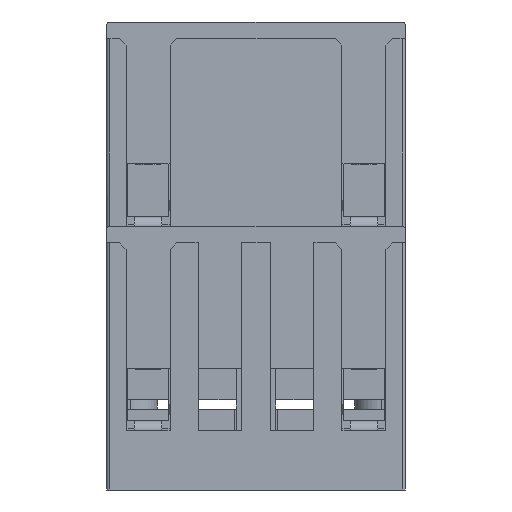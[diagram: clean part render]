
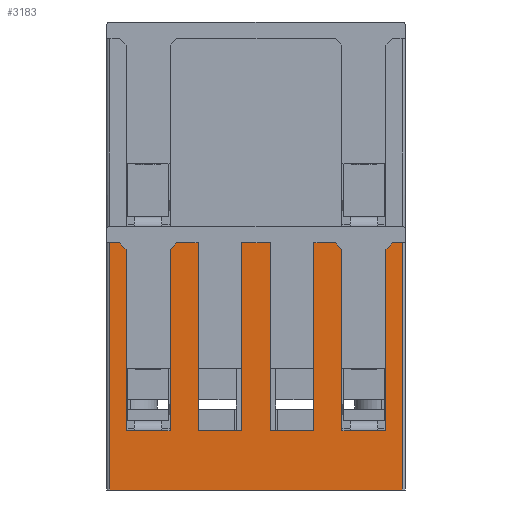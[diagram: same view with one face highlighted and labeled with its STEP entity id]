
A CAD part, left-side view. The second image highlights one B-rep face of the part: STEP entity #3183.
In plain terms, the highlighted planar face has unit normal (-1, 0, 0) as drawn and (1, 0, 0) by its records, which use the part's own axes.
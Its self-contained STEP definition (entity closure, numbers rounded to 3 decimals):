
#3183=ADVANCED_FACE('',(#5503),#4385,.T.);
#4385=PLANE('',#27590);
#5503=FACE_OUTER_BOUND('',#6837,.T.);
#6837=EDGE_LOOP('',(#11658,#11659,#11660,#11661,#11662,#11663,#11664,#11665,
#11666,#11667,#11668,#11669,#11670,#11671,#11672,#11673,#11674,#11675,#11676,
#11677,#11678,#11679,#11680,#11681));
#11658=ORIENTED_EDGE('',*,*,#19515,.T.);
#11659=ORIENTED_EDGE('',*,*,#19516,.T.);
#11660=ORIENTED_EDGE('',*,*,#19517,.F.);
#11661=ORIENTED_EDGE('',*,*,#19518,.T.);
#11662=ORIENTED_EDGE('',*,*,#19519,.F.);
#11663=ORIENTED_EDGE('',*,*,#19520,.F.);
#11664=ORIENTED_EDGE('',*,*,#19271,.F.);
#11665=ORIENTED_EDGE('',*,*,#19276,.T.);
#11666=ORIENTED_EDGE('',*,*,#19377,.F.);
#11667=ORIENTED_EDGE('',*,*,#19521,.F.);
#11668=ORIENTED_EDGE('',*,*,#19522,.F.);
#11669=ORIENTED_EDGE('',*,*,#19523,.F.);
#11670=ORIENTED_EDGE('',*,*,#19351,.F.);
#11671=ORIENTED_EDGE('',*,*,#19524,.F.);
#11672=ORIENTED_EDGE('',*,*,#19525,.F.);
#11673=ORIENTED_EDGE('',*,*,#19526,.F.);
#11674=ORIENTED_EDGE('',*,*,#19348,.F.);
#11675=ORIENTED_EDGE('',*,*,#19317,.T.);
#11676=ORIENTED_EDGE('',*,*,#19308,.F.);
#11677=ORIENTED_EDGE('',*,*,#19527,.F.);
#11678=ORIENTED_EDGE('',*,*,#19528,.F.);
#11679=ORIENTED_EDGE('',*,*,#19529,.T.);
#11680=ORIENTED_EDGE('',*,*,#19344,.F.);
#11681=ORIENTED_EDGE('',*,*,#19530,.T.);
#16350=VERTEX_POINT('',#40593);
#16357=VERTEX_POINT('',#40608);
#16360=VERTEX_POINT('',#40617);
#16384=VERTEX_POINT('',#40679);
#16385=VERTEX_POINT('',#40681);
#16392=VERTEX_POINT('',#40698);
#16414=VERTEX_POINT('',#40750);
#16415=VERTEX_POINT('',#40752);
#16418=VERTEX_POINT('',#40760);
#16420=VERTEX_POINT('',#40765);
#16421=VERTEX_POINT('',#40767);
#16436=VERTEX_POINT('',#40818);
#16527=VERTEX_POINT('',#41075);
#16528=VERTEX_POINT('',#41076);
#16529=VERTEX_POINT('',#41078);
#16530=VERTEX_POINT('',#41080);
#16531=VERTEX_POINT('',#41082);
#16532=VERTEX_POINT('',#41084);
#16533=VERTEX_POINT('',#41087);
#16534=VERTEX_POINT('',#41089);
#16535=VERTEX_POINT('',#41092);
#16536=VERTEX_POINT('',#41094);
#16537=VERTEX_POINT('',#41097);
#16538=VERTEX_POINT('',#41099);
#19271=EDGE_CURVE('',#16357,#16350,#22518,.T.);
#19276=EDGE_CURVE('',#16357,#16360,#22523,.T.);
#19308=EDGE_CURVE('',#16384,#16385,#22554,.T.);
#19317=EDGE_CURVE('',#16392,#16385,#22563,.T.);
#19344=EDGE_CURVE('',#16414,#16415,#22589,.T.);
#19348=EDGE_CURVE('',#16392,#16418,#22593,.T.);
#19351=EDGE_CURVE('',#16420,#16421,#22596,.T.);
#19377=EDGE_CURVE('',#16436,#16360,#22620,.T.);
#19515=EDGE_CURVE('',#16527,#16528,#22743,.T.);
#19516=EDGE_CURVE('',#16528,#16529,#22744,.T.);
#19517=EDGE_CURVE('',#16530,#16529,#22745,.T.);
#19518=EDGE_CURVE('',#16530,#16531,#22746,.T.);
#19519=EDGE_CURVE('',#16532,#16531,#22747,.T.);
#19520=EDGE_CURVE('',#16350,#16532,#22748,.T.);
#19521=EDGE_CURVE('',#16533,#16436,#22749,.T.);
#19522=EDGE_CURVE('',#16534,#16533,#22750,.T.);
#19523=EDGE_CURVE('',#16421,#16534,#22751,.T.);
#19524=EDGE_CURVE('',#16535,#16420,#22752,.T.);
#19525=EDGE_CURVE('',#16536,#16535,#22753,.T.);
#19526=EDGE_CURVE('',#16418,#16536,#22754,.T.);
#19527=EDGE_CURVE('',#16537,#16384,#22755,.T.);
#19528=EDGE_CURVE('',#16538,#16537,#22756,.T.);
#19529=EDGE_CURVE('',#16538,#16415,#22757,.T.);
#19530=EDGE_CURVE('',#16414,#16527,#22758,.T.);
#22518=LINE('',#40609,#25511);
#22523=LINE('',#40618,#25516);
#22554=LINE('',#40680,#25547);
#22563=LINE('',#40697,#25556);
#22589=LINE('',#40751,#25582);
#22593=LINE('',#40759,#25586);
#22596=LINE('',#40766,#25589);
#22620=LINE('',#40817,#25613);
#22743=LINE('',#41074,#25736);
#22744=LINE('',#41077,#25737);
#22745=LINE('',#41079,#25738);
#22746=LINE('',#41081,#25739);
#22747=LINE('',#41083,#25740);
#22748=LINE('',#41085,#25741);
#22749=LINE('',#41086,#25742);
#22750=LINE('',#41088,#25743);
#22751=LINE('',#41090,#25744);
#22752=LINE('',#41091,#25745);
#22753=LINE('',#41093,#25746);
#22754=LINE('',#41095,#25747);
#22755=LINE('',#41096,#25748);
#22756=LINE('',#41098,#25749);
#22757=LINE('',#41100,#25750);
#22758=LINE('',#41101,#25751);
#25511=VECTOR('',#32233,1.);
#25516=VECTOR('',#32240,1.);
#25547=VECTOR('',#32285,1.);
#25556=VECTOR('',#32296,1.);
#25582=VECTOR('',#32332,1.);
#25586=VECTOR('',#32338,1.);
#25589=VECTOR('',#32343,1.);
#25613=VECTOR('',#32391,1.);
#25736=VECTOR('',#32600,1.);
#25737=VECTOR('',#32601,1.);
#25738=VECTOR('',#32602,1.);
#25739=VECTOR('',#32603,1.);
#25740=VECTOR('',#32604,1.);
#25741=VECTOR('',#32605,1.);
#25742=VECTOR('',#32606,1.);
#25743=VECTOR('',#32607,1.);
#25744=VECTOR('',#32608,1.);
#25745=VECTOR('',#32609,1.);
#25746=VECTOR('',#32610,1.);
#25747=VECTOR('',#32611,1.);
#25748=VECTOR('',#32612,1.);
#25749=VECTOR('',#32613,1.);
#25750=VECTOR('',#32614,1.);
#25751=VECTOR('',#32615,1.);
#27590=AXIS2_PLACEMENT_3D('',#41102,#32616,#32617);
#32233=DIRECTION('',(0.,0.,-1.));
#32240=DIRECTION('',(0.,-0.707,0.707));
#32285=DIRECTION('',(0.,0.,1.));
#32296=DIRECTION('',(0.,-0.707,-0.707));
#32332=DIRECTION('',(0.,1.,0.));
#32338=DIRECTION('',(0.,1.,0.));
#32343=DIRECTION('',(0.,1.,0.));
#32391=DIRECTION('',(0.,1.,0.));
#32600=DIRECTION('',(0.,1.,0.));
#32601=DIRECTION('',(0.,0.,1.));
#32602=DIRECTION('',(0.,1.,0.));
#32603=DIRECTION('',(0.,-0.707,-0.707));
#32604=DIRECTION('',(0.,0.,1.));
#32605=DIRECTION('',(0.,1.,0.));
#32606=DIRECTION('',(0.,0.,1.));
#32607=DIRECTION('',(0.,1.,0.));
#32608=DIRECTION('',(0.,0.,-1.));
#32609=DIRECTION('',(0.,0.,1.));
#32610=DIRECTION('',(0.,1.,0.));
#32611=DIRECTION('',(0.,0.,-1.));
#32612=DIRECTION('',(0.,1.,0.));
#32613=DIRECTION('',(0.,0.,-1.));
#32614=DIRECTION('',(0.,-0.707,0.707));
#32615=DIRECTION('',(0.,0.,-1.));
#32616=DIRECTION('',(1.,0.,0.));
#32617=DIRECTION('',(0.,0.,-1.));
#40593=CARTESIAN_POINT('',(75.2,21.425,5.4));
#40608=CARTESIAN_POINT('',(75.2,21.425,21.9));
#40609=CARTESIAN_POINT('',(75.2,21.425,0.));
#40617=CARTESIAN_POINT('',(75.2,20.825,22.5));
#40618=CARTESIAN_POINT('',(75.2,28.463,14.863));
#40679=CARTESIAN_POINT('',(75.2,5.775,5.4));
#40680=CARTESIAN_POINT('',(75.2,5.775,0.));
#40681=CARTESIAN_POINT('',(75.2,5.775,21.9));
#40697=CARTESIAN_POINT('',(75.2,-1.263,14.863));
#40698=CARTESIAN_POINT('',(75.2,6.375,22.5));
#40750=CARTESIAN_POINT('',(75.2,0.3,22.5));
#40751=CARTESIAN_POINT('',(75.2,0.,22.5));
#40752=CARTESIAN_POINT('',(75.2,1.175,22.5));
#40759=CARTESIAN_POINT('',(75.2,0.,22.5));
#40760=CARTESIAN_POINT('',(75.2,8.325,22.5));
#40765=CARTESIAN_POINT('',(75.2,12.325,22.5));
#40766=CARTESIAN_POINT('',(75.2,0.,22.5));
#40767=CARTESIAN_POINT('',(75.2,14.875,22.5));
#40817=CARTESIAN_POINT('',(75.2,0.,22.5));
#40818=CARTESIAN_POINT('',(75.2,18.875,22.5));
#41074=CARTESIAN_POINT('',(75.2,13.6,0.));
#41075=CARTESIAN_POINT('',(75.2,0.3,0.));
#41076=CARTESIAN_POINT('',(75.2,26.9,0.));
#41077=CARTESIAN_POINT('',(75.2,26.9,0.));
#41078=CARTESIAN_POINT('',(75.2,26.9,22.5));
#41079=CARTESIAN_POINT('',(75.2,0.,22.5));
#41080=CARTESIAN_POINT('',(75.2,26.025,22.5));
#41081=CARTESIAN_POINT('',(75.2,8.563,5.038));
#41082=CARTESIAN_POINT('',(75.2,25.425,21.9));
#41083=CARTESIAN_POINT('',(75.2,25.425,0.));
#41084=CARTESIAN_POINT('',(75.2,25.425,5.4));
#41085=CARTESIAN_POINT('',(75.2,13.6,5.4));
#41086=CARTESIAN_POINT('',(75.2,18.875,0.));
#41087=CARTESIAN_POINT('',(75.2,18.875,5.4));
#41088=CARTESIAN_POINT('',(75.2,13.6,5.4));
#41089=CARTESIAN_POINT('',(75.2,14.875,5.4));
#41090=CARTESIAN_POINT('',(75.2,14.875,0.));
#41091=CARTESIAN_POINT('',(75.2,12.325,0.));
#41092=CARTESIAN_POINT('',(75.2,12.325,5.4));
#41093=CARTESIAN_POINT('',(75.2,13.6,5.4));
#41094=CARTESIAN_POINT('',(75.2,8.325,5.4));
#41095=CARTESIAN_POINT('',(75.2,8.325,0.));
#41096=CARTESIAN_POINT('',(75.2,13.6,5.4));
#41097=CARTESIAN_POINT('',(75.2,1.775,5.4));
#41098=CARTESIAN_POINT('',(75.2,1.775,0.));
#41099=CARTESIAN_POINT('',(75.2,1.775,21.9));
#41100=CARTESIAN_POINT('',(75.2,18.638,5.038));
#41101=CARTESIAN_POINT('',(75.2,0.3,0.));
#41102=CARTESIAN_POINT('',(75.2,13.6,0.));
